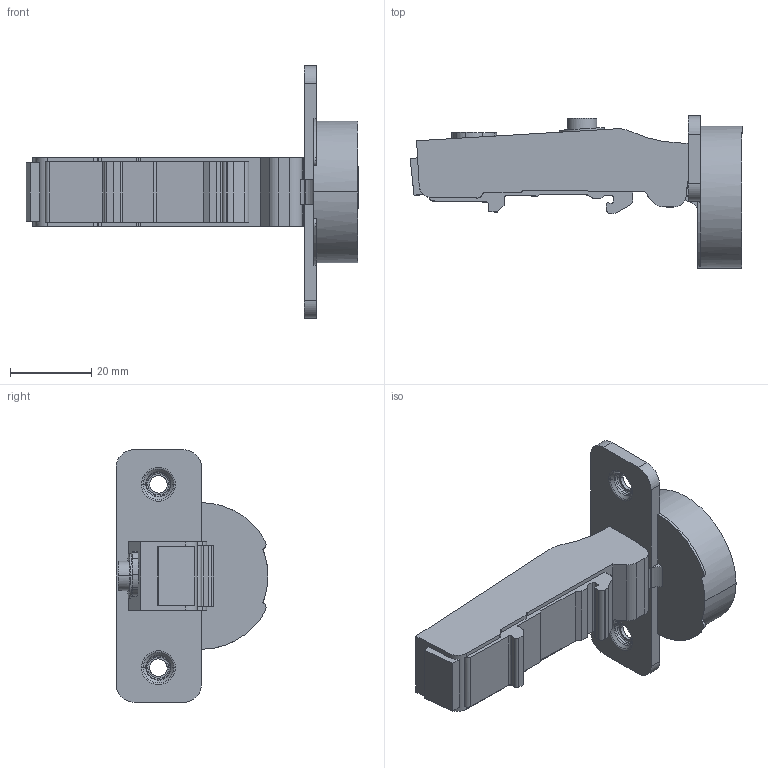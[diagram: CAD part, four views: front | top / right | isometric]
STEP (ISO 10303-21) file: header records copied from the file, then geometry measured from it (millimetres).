
FILE_DESCRIPTION (( 'STEP AP203' ), '1' );
FILE_NAME ('C85A6A5F-DTC3D close.STEP', '2021-04-12T01:08:36', ( '' ), ( '' ), 'SwSTEP 2.0', 'SolidWorks 2018', '' );
FILE_SCHEMA (( 'CONFIG_CONTROL_DESIGN' ));
Length unit declared in the file: millimetre
Products named in the file (1): C85A6A5F-DTC3D close
Bounding box: 81.48 x 37.3 x 62 mm (x, y, z)
Surface area: 10052.3 mm2 (no closed solid volume)
Topology: 0 solids, 2 shells, 152 faces, 427 edges, 282 vertices
Faces by surface type: plane 67, cylinder 65, torus 12, cone 4, bspline 4
Entity records: 6604 total; most frequent: CARTESIAN_POINT 3459, ORIENTED_EDGE 850, EDGE_CURVE 427, B_SPLINE_CURVE_WITH_KNOTS 427, DIRECTION 298, VERTEX_POINT 282, EDGE_LOOP 163, ADVANCED_FACE 152
